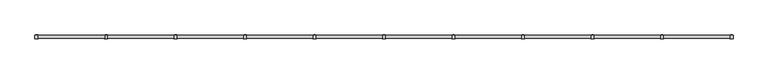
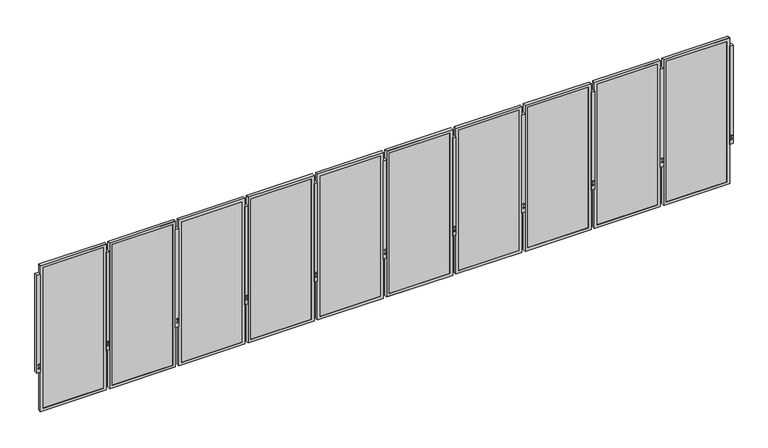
"""IFC4 building model written with IfcOpenShell, lengths in millimetres: railing geometry, Railing - Amico Architectural - Expanded Mesh Railing - Crescent."""

from ifc_helpers import new_model, si_unit, frame, origin, place, context, project, spatial, polyline, outline, extrude, faceted_brep, source, transform, mapped, element, save


def railing_95e22be3(model_context):
    return source(origin(), model_context, "Body", "SolidModel", [
        extrude(outline(polyline([(-3185.0155401, -28401.1435737), (-3134.2155401, -28401.1435737), (-3134.2155401, -28451.9435737), (-3185.0155401, -28451.9435737), (-3185.0155401, -28401.1435737)])), frame((0.0, 0.0, -609.6), z_axis=(0.0, 0.0, 1.0), x_axis=(1.0, 0.0, 0.0)), (0.0, 0.0, 1.0), 1524.0),
        extrude(outline(polyline([(-530.1129981, -3170.0361103), (-542.3802561, -3166.7491084), (-545.667258, -3154.4818504), (-536.6870019, -3145.5015943), (-524.4197439, -3148.7885962), (-521.132742, -3161.0558542), (-530.1129981, -3170.0361103)])), frame((0.0, -28453.7902615, 0.0), z_axis=(0.0, 1.0, 0.0), x_axis=(0.0, 0.0, 1.0)), (0.0, 0.0, 1.0), 54.4933756),
        extrude(outline(polyline([(-479.3129981, -3170.0361103), (-491.5802561, -3166.7491084), (-494.867258, -3154.4818504), (-485.8870019, -3145.5015943), (-473.6197439, -3148.7885962), (-470.332742, -3161.0558542), (-479.3129981, -3170.0361103)])), frame((0.0, -28453.7902615, 0.0), z_axis=(0.0, 1.0, 0.0), x_axis=(0.0, 0.0, 1.0)), (0.0, 0.0, 1.0), 54.4933756),
        faceted_brep([(-4151.4199935, -28448.3367737, -1222.375), (-3183.0449935, -28448.3367737, -1222.375), (-3183.0449935, -28448.3367737, 1044.575), (-4151.4199935, -28448.3367737, 1044.575), (-4110.1449935, -28448.3367737, 1003.3), (-3224.3199935, -28448.3367737, 1003.3), (-3224.3199935, -28448.3367737, -1181.1), (-4110.1449935, -28448.3367737, -1181.1), (-4110.1449935, -28445.5935737, 1003.3), (-4110.1449935, -28445.5935737, -1181.1), (-4151.4199935, -28404.4634772, 1044.575), (-4151.4199935, -28404.4634772, -1222.375), (-4148.2449935, -28404.4634772, 1041.4), (-4148.2449935, -28445.5935737, 1041.4), (-4148.2449935, -28445.5935737, -1219.2), (-4148.2449935, -28404.4634772, -1219.2), (-3224.3199935, -28445.5935737, -1181.1), (-3183.0449935, -28404.4634772, -1222.375), (-3186.2199935, -28445.5935737, -1219.2), (-3186.2199935, -28404.4634772, -1219.2), (-3224.3199935, -28445.5935737, 1003.3), (-3183.0449935, -28404.4634772, 1044.575), (-3186.2199935, -28445.5935737, 1041.4), (-3186.2199935, -28404.4634772, 1041.4)], [[[0, 1, 2, 3], [4, 5, 6, 7]], [[8, 4, 7, 9]], [[3, 10, 11, 0]], [[12, 13, 14, 15]], [[9, 7, 6, 16]], [[0, 11, 17, 1]], [[15, 14, 18, 19]], [[16, 6, 5, 20]], [[1, 17, 21, 2]], [[19, 18, 22, 23]], [[20, 5, 4, 8]], [[10, 21, 17, 11], [15, 19, 23, 12]], [[2, 21, 10, 3]], [[13, 22, 18, 14], [9, 16, 20, 8]], [[23, 22, 13, 12]]]),
        extrude(outline(polyline([(-4148.2449935, -28436.0685737), (-3186.2199935, -28436.0685737), (-3186.2199935, -28445.5935737), (-4148.2449935, -28445.5935737), (-4148.2449935, -28436.0685737)])), frame((0.0, 0.0, -1219.2), z_axis=(0.0, 0.0, 1.0), x_axis=(1.0, 0.0, 0.0)), (0.0, 0.0, 1.0), 2260.6),
        extrude(outline(polyline([(-4202.6030401, -28401.1435737), (-4151.8030401, -28401.1435737), (-4151.8030401, -28451.9435737), (-4202.6030401, -28451.9435737), (-4202.6030401, -28401.1435737)])), frame((0.0, 0.0, -609.6), z_axis=(0.0, 0.0, 1.0), x_axis=(1.0, 0.0, 0.0)), (0.0, 0.0, 1.0), 1524.0),
        extrude(outline(polyline([(-530.1129981, -4187.6236103), (-542.3802561, -4184.3366084), (-545.667258, -4172.0693504), (-536.6870019, -4163.0890943), (-524.4197439, -4166.3760962), (-521.132742, -4178.6433542), (-530.1129981, -4187.6236103)])), frame((0.0, -28453.7902615, 0.0), z_axis=(0.0, 1.0, 0.0), x_axis=(0.0, 0.0, 1.0)), (0.0, 0.0, 1.0), 54.4933756),
        extrude(outline(polyline([(-479.3129981, -4187.6236103), (-491.5802561, -4184.3366084), (-494.867258, -4172.0693504), (-485.8870019, -4163.0890943), (-473.6197439, -4166.3760962), (-470.332742, -4178.6433542), (-479.3129981, -4187.6236103)])), frame((0.0, -28453.7902615, 0.0), z_axis=(0.0, 1.0, 0.0), x_axis=(0.0, 0.0, 1.0)), (0.0, 0.0, 1.0), 54.4933756),
        faceted_brep([(-5169.0074935, -28448.3367737, -1222.375), (-4200.6324935, -28448.3367737, -1222.375), (-4200.6324935, -28448.3367737, 1044.575), (-5169.0074935, -28448.3367737, 1044.575), (-5127.7324935, -28448.3367737, 1003.3), (-4241.9074935, -28448.3367737, 1003.3), (-4241.9074935, -28448.3367737, -1181.1), (-5127.7324935, -28448.3367737, -1181.1), (-5127.7324935, -28445.5935737, 1003.3), (-5127.7324935, -28445.5935737, -1181.1), (-5169.0074935, -28404.4634772, 1044.575), (-5169.0074935, -28404.4634772, -1222.375), (-5165.8324935, -28404.4634772, 1041.4), (-5165.8324935, -28445.5935737, 1041.4), (-5165.8324935, -28445.5935737, -1219.2), (-5165.8324935, -28404.4634772, -1219.2), (-4241.9074935, -28445.5935737, -1181.1), (-4200.6324935, -28404.4634772, -1222.375), (-4203.8074935, -28445.5935737, -1219.2), (-4203.8074935, -28404.4634772, -1219.2), (-4241.9074935, -28445.5935737, 1003.3), (-4200.6324935, -28404.4634772, 1044.575), (-4203.8074935, -28445.5935737, 1041.4), (-4203.8074935, -28404.4634772, 1041.4)], [[[0, 1, 2, 3], [4, 5, 6, 7]], [[8, 4, 7, 9]], [[3, 10, 11, 0]], [[12, 13, 14, 15]], [[9, 7, 6, 16]], [[0, 11, 17, 1]], [[15, 14, 18, 19]], [[16, 6, 5, 20]], [[1, 17, 21, 2]], [[19, 18, 22, 23]], [[20, 5, 4, 8]], [[10, 21, 17, 11], [15, 19, 23, 12]], [[2, 21, 10, 3]], [[13, 22, 18, 14], [9, 16, 20, 8]], [[23, 22, 13, 12]]]),
        extrude(outline(polyline([(-5165.8324935, -28436.0685737), (-4203.8074935, -28436.0685737), (-4203.8074935, -28445.5935737), (-5165.8324935, -28445.5935737), (-5165.8324935, -28436.0685737)])), frame((0.0, 0.0, -1219.2), z_axis=(0.0, 0.0, 1.0), x_axis=(1.0, 0.0, 0.0)), (0.0, 0.0, 1.0), 2260.6),
        extrude(outline(polyline([(-5220.1905401, -28401.1435737), (-5169.3905401, -28401.1435737), (-5169.3905401, -28451.9435737), (-5220.1905401, -28451.9435737), (-5220.1905401, -28401.1435737)])), frame((0.0, 0.0, -609.6), z_axis=(0.0, 0.0, 1.0), x_axis=(1.0, 0.0, 0.0)), (0.0, 0.0, 1.0), 1524.0),
        extrude(outline(polyline([(-530.1129981, -5205.2111103), (-542.3802561, -5201.9241084), (-545.667258, -5189.6568504), (-536.6870019, -5180.6765943), (-524.4197439, -5183.9635962), (-521.132742, -5196.2308542), (-530.1129981, -5205.2111103)])), frame((0.0, -28453.7902615, 0.0), z_axis=(0.0, 1.0, 0.0), x_axis=(0.0, 0.0, 1.0)), (0.0, 0.0, 1.0), 54.4933756),
        extrude(outline(polyline([(-479.3129981, -5205.2111103), (-491.5802561, -5201.9241084), (-494.867258, -5189.6568504), (-485.8870019, -5180.6765943), (-473.6197439, -5183.9635962), (-470.332742, -5196.2308542), (-479.3129981, -5205.2111103)])), frame((0.0, -28453.7902615, 0.0), z_axis=(0.0, 1.0, 0.0), x_axis=(0.0, 0.0, 1.0)), (0.0, 0.0, 1.0), 54.4933756),
        faceted_brep([(-6186.5949935, -28448.3367737, -1222.375), (-5218.2199935, -28448.3367737, -1222.375), (-5218.2199935, -28448.3367737, 1044.575), (-6186.5949935, -28448.3367737, 1044.575), (-6145.3199935, -28448.3367737, 1003.3), (-5259.4949935, -28448.3367737, 1003.3), (-5259.4949935, -28448.3367737, -1181.1), (-6145.3199935, -28448.3367737, -1181.1), (-6145.3199935, -28445.5935737, 1003.3), (-6145.3199935, -28445.5935737, -1181.1), (-6186.5949935, -28404.4634772, 1044.575), (-6186.5949935, -28404.4634772, -1222.375), (-6183.4199935, -28404.4634772, 1041.4), (-6183.4199935, -28445.5935737, 1041.4), (-6183.4199935, -28445.5935737, -1219.2), (-6183.4199935, -28404.4634772, -1219.2), (-5259.4949935, -28445.5935737, -1181.1), (-5218.2199935, -28404.4634772, -1222.375), (-5221.3949935, -28445.5935737, -1219.2), (-5221.3949935, -28404.4634772, -1219.2), (-5259.4949935, -28445.5935737, 1003.3), (-5218.2199935, -28404.4634772, 1044.575), (-5221.3949935, -28445.5935737, 1041.4), (-5221.3949935, -28404.4634772, 1041.4)], [[[0, 1, 2, 3], [4, 5, 6, 7]], [[8, 4, 7, 9]], [[3, 10, 11, 0]], [[12, 13, 14, 15]], [[9, 7, 6, 16]], [[0, 11, 17, 1]], [[15, 14, 18, 19]], [[16, 6, 5, 20]], [[1, 17, 21, 2]], [[19, 18, 22, 23]], [[20, 5, 4, 8]], [[10, 21, 17, 11], [15, 19, 23, 12]], [[2, 21, 10, 3]], [[13, 22, 18, 14], [9, 16, 20, 8]], [[23, 22, 13, 12]]]),
        extrude(outline(polyline([(-6183.4199935, -28436.0685737), (-5221.3949935, -28436.0685737), (-5221.3949935, -28445.5935737), (-6183.4199935, -28445.5935737), (-6183.4199935, -28436.0685737)])), frame((0.0, 0.0, -1219.2), z_axis=(0.0, 0.0, 1.0), x_axis=(1.0, 0.0, 0.0)), (0.0, 0.0, 1.0), 2260.6),
        extrude(outline(polyline([(-6237.7780401, -28401.1435737), (-6186.9780401, -28401.1435737), (-6186.9780401, -28451.9435737), (-6237.7780401, -28451.9435737), (-6237.7780401, -28401.1435737)])), frame((0.0, 0.0, -609.6), z_axis=(0.0, 0.0, 1.0), x_axis=(1.0, 0.0, 0.0)), (0.0, 0.0, 1.0), 1524.0),
        extrude(outline(polyline([(-530.1129981, -6222.7986103), (-542.3802561, -6219.5116084), (-545.667258, -6207.2443504), (-536.6870019, -6198.2640943), (-524.4197439, -6201.5510962), (-521.132742, -6213.8183542), (-530.1129981, -6222.7986103)])), frame((0.0, -28453.7902615, 0.0), z_axis=(0.0, 1.0, 0.0), x_axis=(0.0, 0.0, 1.0)), (0.0, 0.0, 1.0), 54.4933756),
        extrude(outline(polyline([(-479.3129981, -6222.7986103), (-491.5802561, -6219.5116084), (-494.867258, -6207.2443504), (-485.8870019, -6198.2640943), (-473.6197439, -6201.5510962), (-470.332742, -6213.8183542), (-479.3129981, -6222.7986103)])), frame((0.0, -28453.7902615, 0.0), z_axis=(0.0, 1.0, 0.0), x_axis=(0.0, 0.0, 1.0)), (0.0, 0.0, 1.0), 54.4933756),
        faceted_brep([(-7204.1824935, -28448.3367737, -1222.375), (-6235.8074935, -28448.3367737, -1222.375), (-6235.8074935, -28448.3367737, 1044.575), (-7204.1824935, -28448.3367737, 1044.575), (-7162.9074935, -28448.3367737, 1003.3), (-6277.0824935, -28448.3367737, 1003.3), (-6277.0824935, -28448.3367737, -1181.1), (-7162.9074935, -28448.3367737, -1181.1), (-7162.9074935, -28445.5935737, 1003.3), (-7162.9074935, -28445.5935737, -1181.1), (-7204.1824935, -28404.4634772, 1044.575), (-7204.1824935, -28404.4634772, -1222.375), (-7201.0074935, -28404.4634772, 1041.4), (-7201.0074935, -28445.5935737, 1041.4), (-7201.0074935, -28445.5935737, -1219.2), (-7201.0074935, -28404.4634772, -1219.2), (-6277.0824935, -28445.5935737, -1181.1), (-6235.8074935, -28404.4634772, -1222.375), (-6238.9824935, -28445.5935737, -1219.2), (-6238.9824935, -28404.4634772, -1219.2), (-6277.0824935, -28445.5935737, 1003.3), (-6235.8074935, -28404.4634772, 1044.575), (-6238.9824935, -28445.5935737, 1041.4), (-6238.9824935, -28404.4634772, 1041.4)], [[[0, 1, 2, 3], [4, 5, 6, 7]], [[8, 4, 7, 9]], [[3, 10, 11, 0]], [[12, 13, 14, 15]], [[9, 7, 6, 16]], [[0, 11, 17, 1]], [[15, 14, 18, 19]], [[16, 6, 5, 20]], [[1, 17, 21, 2]], [[19, 18, 22, 23]], [[20, 5, 4, 8]], [[10, 21, 17, 11], [15, 19, 23, 12]], [[2, 21, 10, 3]], [[13, 22, 18, 14], [9, 16, 20, 8]], [[23, 22, 13, 12]]]),
        extrude(outline(polyline([(-7201.0074935, -28436.0685737), (-6238.9824935, -28436.0685737), (-6238.9824935, -28445.5935737), (-7201.0074935, -28445.5935737), (-7201.0074935, -28436.0685737)])), frame((0.0, 0.0, -1219.2), z_axis=(0.0, 0.0, 1.0), x_axis=(1.0, 0.0, 0.0)), (0.0, 0.0, 1.0), 2260.6),
        extrude(outline(polyline([(-7255.3655401, -28401.1435737), (-7204.5655401, -28401.1435737), (-7204.5655401, -28451.9435737), (-7255.3655401, -28451.9435737), (-7255.3655401, -28401.1435737)])), frame((0.0, 0.0, -609.6), z_axis=(0.0, 0.0, 1.0), x_axis=(1.0, 0.0, 0.0)), (0.0, 0.0, 1.0), 1524.0),
        extrude(outline(polyline([(-530.1129981, -7240.3861103), (-542.3802561, -7237.0991084), (-545.667258, -7224.8318504), (-536.6870019, -7215.8515943), (-524.4197439, -7219.1385962), (-521.132742, -7231.4058542), (-530.1129981, -7240.3861103)])), frame((0.0, -28453.7902615, 0.0), z_axis=(0.0, 1.0, 0.0), x_axis=(0.0, 0.0, 1.0)), (0.0, 0.0, 1.0), 54.4933756),
        extrude(outline(polyline([(-479.3129981, -7240.3861103), (-491.5802561, -7237.0991084), (-494.867258, -7224.8318504), (-485.8870019, -7215.8515943), (-473.6197439, -7219.1385962), (-470.332742, -7231.4058542), (-479.3129981, -7240.3861103)])), frame((0.0, -28453.7902615, 0.0), z_axis=(0.0, 1.0, 0.0), x_axis=(0.0, 0.0, 1.0)), (0.0, 0.0, 1.0), 54.4933756),
        faceted_brep([(-8221.7699935, -28448.3367737, -1222.375), (-7253.3949935, -28448.3367737, -1222.375), (-7253.3949935, -28448.3367737, 1044.575), (-8221.7699935, -28448.3367737, 1044.575), (-8180.4949935, -28448.3367737, 1003.3), (-7294.6699935, -28448.3367737, 1003.3), (-7294.6699935, -28448.3367737, -1181.1), (-8180.4949935, -28448.3367737, -1181.1), (-8180.4949935, -28445.5935737, 1003.3), (-8180.4949935, -28445.5935737, -1181.1), (-8221.7699935, -28404.4634772, 1044.575), (-8221.7699935, -28404.4634772, -1222.375), (-8218.5949935, -28404.4634772, 1041.4), (-8218.5949935, -28445.5935737, 1041.4), (-8218.5949935, -28445.5935737, -1219.2), (-8218.5949935, -28404.4634772, -1219.2), (-7294.6699935, -28445.5935737, -1181.1), (-7253.3949935, -28404.4634772, -1222.375), (-7256.5699935, -28445.5935737, -1219.2), (-7256.5699935, -28404.4634772, -1219.2), (-7294.6699935, -28445.5935737, 1003.3), (-7253.3949935, -28404.4634772, 1044.575), (-7256.5699935, -28445.5935737, 1041.4), (-7256.5699935, -28404.4634772, 1041.4)], [[[0, 1, 2, 3], [4, 5, 6, 7]], [[8, 4, 7, 9]], [[3, 10, 11, 0]], [[12, 13, 14, 15]], [[9, 7, 6, 16]], [[0, 11, 17, 1]], [[15, 14, 18, 19]], [[16, 6, 5, 20]], [[1, 17, 21, 2]], [[19, 18, 22, 23]], [[20, 5, 4, 8]], [[10, 21, 17, 11], [15, 19, 23, 12]], [[2, 21, 10, 3]], [[13, 22, 18, 14], [9, 16, 20, 8]], [[23, 22, 13, 12]]]),
        extrude(outline(polyline([(-8218.5949935, -28436.0685737), (-7256.5699935, -28436.0685737), (-7256.5699935, -28445.5935737), (-8218.5949935, -28445.5935737), (-8218.5949935, -28436.0685737)])), frame((0.0, 0.0, -1219.2), z_axis=(0.0, 0.0, 1.0), x_axis=(1.0, 0.0, 0.0)), (0.0, 0.0, 1.0), 2260.6),
        extrude(outline(polyline([(-8272.9530401, -28401.1435737), (-8222.1530401, -28401.1435737), (-8222.1530401, -28451.9435737), (-8272.9530401, -28451.9435737), (-8272.9530401, -28401.1435737)])), frame((0.0, 0.0, -609.6), z_axis=(0.0, 0.0, 1.0), x_axis=(1.0, 0.0, 0.0)), (0.0, 0.0, 1.0), 1524.0),
        extrude(outline(polyline([(-530.1129981, -8257.9736103), (-542.3802561, -8254.6866084), (-545.667258, -8242.4193504), (-536.6870019, -8233.4390943), (-524.4197439, -8236.7260962), (-521.132742, -8248.9933542), (-530.1129981, -8257.9736103)])), frame((0.0, -28453.7902615, 0.0), z_axis=(0.0, 1.0, 0.0), x_axis=(0.0, 0.0, 1.0)), (0.0, 0.0, 1.0), 54.4933756),
        extrude(outline(polyline([(-479.3129981, -8257.9736103), (-491.5802561, -8254.6866084), (-494.867258, -8242.4193504), (-485.8870019, -8233.4390943), (-473.6197439, -8236.7260962), (-470.332742, -8248.9933542), (-479.3129981, -8257.9736103)])), frame((0.0, -28453.7902615, 0.0), z_axis=(0.0, 1.0, 0.0), x_axis=(0.0, 0.0, 1.0)), (0.0, 0.0, 1.0), 54.4933756),
        faceted_brep([(-9239.3574935, -28448.3367737, -1222.375), (-8270.9824935, -28448.3367737, -1222.375), (-8270.9824935, -28448.3367737, 1044.575), (-9239.3574935, -28448.3367737, 1044.575), (-9198.0824935, -28448.3367737, 1003.3), (-8312.2574935, -28448.3367737, 1003.3), (-8312.2574935, -28448.3367737, -1181.1), (-9198.0824935, -28448.3367737, -1181.1), (-9198.0824935, -28445.5935737, 1003.3), (-9198.0824935, -28445.5935737, -1181.1), (-9239.3574935, -28404.4634772, 1044.575), (-9239.3574935, -28404.4634772, -1222.375), (-9236.1824935, -28404.4634772, 1041.4), (-9236.1824935, -28445.5935737, 1041.4), (-9236.1824935, -28445.5935737, -1219.2), (-9236.1824935, -28404.4634772, -1219.2), (-8312.2574935, -28445.5935737, -1181.1), (-8270.9824935, -28404.4634772, -1222.375), (-8274.1574935, -28445.5935737, -1219.2), (-8274.1574935, -28404.4634772, -1219.2), (-8312.2574935, -28445.5935737, 1003.3), (-8270.9824935, -28404.4634772, 1044.575), (-8274.1574935, -28445.5935737, 1041.4), (-8274.1574935, -28404.4634772, 1041.4)], [[[0, 1, 2, 3], [4, 5, 6, 7]], [[8, 4, 7, 9]], [[3, 10, 11, 0]], [[12, 13, 14, 15]], [[9, 7, 6, 16]], [[0, 11, 17, 1]], [[15, 14, 18, 19]], [[16, 6, 5, 20]], [[1, 17, 21, 2]], [[19, 18, 22, 23]], [[20, 5, 4, 8]], [[10, 21, 17, 11], [15, 19, 23, 12]], [[2, 21, 10, 3]], [[13, 22, 18, 14], [9, 16, 20, 8]], [[23, 22, 13, 12]]]),
        extrude(outline(polyline([(-9236.1824935, -28436.0685737), (-8274.1574935, -28436.0685737), (-8274.1574935, -28445.5935737), (-9236.1824935, -28445.5935737), (-9236.1824935, -28436.0685737)])), frame((0.0, 0.0, -1219.2), z_axis=(0.0, 0.0, 1.0), x_axis=(1.0, 0.0, 0.0)), (0.0, 0.0, 1.0), 2260.6),
        extrude(outline(polyline([(-9290.5405401, -28401.1435737), (-9239.7405401, -28401.1435737), (-9239.7405401, -28451.9435737), (-9290.5405401, -28451.9435737), (-9290.5405401, -28401.1435737)])), frame((0.0, 0.0, -609.6), z_axis=(0.0, 0.0, 1.0), x_axis=(1.0, 0.0, 0.0)), (0.0, 0.0, 1.0), 1524.0),
        extrude(outline(polyline([(-530.1129981, -9275.5611103), (-542.3802561, -9272.2741084), (-545.667258, -9260.0068504), (-536.6870019, -9251.0265943), (-524.4197439, -9254.3135962), (-521.132742, -9266.5808542), (-530.1129981, -9275.5611103)])), frame((0.0, -28453.7902615, 0.0), z_axis=(0.0, 1.0, 0.0), x_axis=(0.0, 0.0, 1.0)), (0.0, 0.0, 1.0), 54.4933756),
        extrude(outline(polyline([(-479.3129981, -9275.5611103), (-491.5802561, -9272.2741084), (-494.867258, -9260.0068504), (-485.8870019, -9251.0265943), (-473.6197439, -9254.3135962), (-470.332742, -9266.5808542), (-479.3129981, -9275.5611103)])), frame((0.0, -28453.7902615, 0.0), z_axis=(0.0, 1.0, 0.0), x_axis=(0.0, 0.0, 1.0)), (0.0, 0.0, 1.0), 54.4933756),
        faceted_brep([(-10256.9449935, -28448.3367737, -1222.375), (-9288.5699935, -28448.3367737, -1222.375), (-9288.5699935, -28448.3367737, 1044.575), (-10256.9449935, -28448.3367737, 1044.575), (-10215.6699935, -28448.3367737, 1003.3), (-9329.8449935, -28448.3367737, 1003.3), (-9329.8449935, -28448.3367737, -1181.1), (-10215.6699935, -28448.3367737, -1181.1), (-10215.6699935, -28445.5935737, 1003.3), (-10215.6699935, -28445.5935737, -1181.1), (-10256.9449935, -28404.4634772, 1044.575), (-10256.9449935, -28404.4634772, -1222.375), (-10253.7699935, -28404.4634772, 1041.4), (-10253.7699935, -28445.5935737, 1041.4), (-10253.7699935, -28445.5935737, -1219.2), (-10253.7699935, -28404.4634772, -1219.2), (-9329.8449935, -28445.5935737, -1181.1), (-9288.5699935, -28404.4634772, -1222.375), (-9291.7449935, -28445.5935737, -1219.2), (-9291.7449935, -28404.4634772, -1219.2), (-9329.8449935, -28445.5935737, 1003.3), (-9288.5699935, -28404.4634772, 1044.575), (-9291.7449935, -28445.5935737, 1041.4), (-9291.7449935, -28404.4634772, 1041.4)], [[[0, 1, 2, 3], [4, 5, 6, 7]], [[8, 4, 7, 9]], [[3, 10, 11, 0]], [[12, 13, 14, 15]], [[9, 7, 6, 16]], [[0, 11, 17, 1]], [[15, 14, 18, 19]], [[16, 6, 5, 20]], [[1, 17, 21, 2]], [[19, 18, 22, 23]], [[20, 5, 4, 8]], [[10, 21, 17, 11], [15, 19, 23, 12]], [[2, 21, 10, 3]], [[13, 22, 18, 14], [9, 16, 20, 8]], [[23, 22, 13, 12]]]),
        extrude(outline(polyline([(-10253.7699935, -28436.0685737), (-9291.7449935, -28436.0685737), (-9291.7449935, -28445.5935737), (-10253.7699935, -28445.5935737), (-10253.7699935, -28436.0685737)])), frame((0.0, 0.0, -1219.2), z_axis=(0.0, 0.0, 1.0), x_axis=(1.0, 0.0, 0.0)), (0.0, 0.0, 1.0), 2260.6),
        extrude(outline(polyline([(-10308.1280401, -28401.1435737), (-10257.3280401, -28401.1435737), (-10257.3280401, -28451.9435737), (-10308.1280401, -28451.9435737), (-10308.1280401, -28401.1435737)])), frame((0.0, 0.0, -609.6), z_axis=(0.0, 0.0, 1.0), x_axis=(1.0, 0.0, 0.0)), (0.0, 0.0, 1.0), 1524.0),
        extrude(outline(polyline([(-530.1129981, -10293.1486103), (-542.3802561, -10289.8616084), (-545.667258, -10277.5943504), (-536.6870019, -10268.6140943), (-524.4197439, -10271.9010962), (-521.132742, -10284.1683542), (-530.1129981, -10293.1486103)])), frame((0.0, -28453.7902615, 0.0), z_axis=(0.0, 1.0, 0.0), x_axis=(0.0, 0.0, 1.0)), (0.0, 0.0, 1.0), 54.4933756),
        extrude(outline(polyline([(-479.3129981, -10293.1486103), (-491.5802561, -10289.8616084), (-494.867258, -10277.5943504), (-485.8870019, -10268.6140943), (-473.6197439, -10271.9010962), (-470.332742, -10284.1683542), (-479.3129981, -10293.1486103)])), frame((0.0, -28453.7902615, 0.0), z_axis=(0.0, 1.0, 0.0), x_axis=(0.0, 0.0, 1.0)), (0.0, 0.0, 1.0), 54.4933756),
        faceted_brep([(-11274.5324935, -28448.3367737, -1222.375), (-10306.1574935, -28448.3367737, -1222.375), (-10306.1574935, -28448.3367737, 1044.575), (-11274.5324935, -28448.3367737, 1044.575), (-11233.2574935, -28448.3367737, 1003.3), (-10347.4324935, -28448.3367737, 1003.3), (-10347.4324935, -28448.3367737, -1181.1), (-11233.2574935, -28448.3367737, -1181.1), (-11233.2574935, -28445.5935737, 1003.3), (-11233.2574935, -28445.5935737, -1181.1), (-11274.5324935, -28404.4634772, 1044.575), (-11274.5324935, -28404.4634772, -1222.375), (-11271.3574935, -28404.4634772, 1041.4), (-11271.3574935, -28445.5935737, 1041.4), (-11271.3574935, -28445.5935737, -1219.2), (-11271.3574935, -28404.4634772, -1219.2), (-10347.4324935, -28445.5935737, -1181.1), (-10306.1574935, -28404.4634772, -1222.375), (-10309.3324935, -28445.5935737, -1219.2), (-10309.3324935, -28404.4634772, -1219.2), (-10347.4324935, -28445.5935737, 1003.3), (-10306.1574935, -28404.4634772, 1044.575), (-10309.3324935, -28445.5935737, 1041.4), (-10309.3324935, -28404.4634772, 1041.4)], [[[0, 1, 2, 3], [4, 5, 6, 7]], [[8, 4, 7, 9]], [[3, 10, 11, 0]], [[12, 13, 14, 15]], [[9, 7, 6, 16]], [[0, 11, 17, 1]], [[15, 14, 18, 19]], [[16, 6, 5, 20]], [[1, 17, 21, 2]], [[19, 18, 22, 23]], [[20, 5, 4, 8]], [[10, 21, 17, 11], [15, 19, 23, 12]], [[2, 21, 10, 3]], [[13, 22, 18, 14], [9, 16, 20, 8]], [[23, 22, 13, 12]]]),
        extrude(outline(polyline([(-11271.3574935, -28436.0685737), (-10309.3324935, -28436.0685737), (-10309.3324935, -28445.5935737), (-11271.3574935, -28445.5935737), (-11271.3574935, -28436.0685737)])), frame((0.0, 0.0, -1219.2), z_axis=(0.0, 0.0, 1.0), x_axis=(1.0, 0.0, 0.0)), (0.0, 0.0, 1.0), 2260.6),
        extrude(outline(polyline([(-11325.7155401, -28401.1435737), (-11274.9155401, -28401.1435737), (-11274.9155401, -28451.9435737), (-11325.7155401, -28451.9435737), (-11325.7155401, -28401.1435737)])), frame((0.0, 0.0, -609.6), z_axis=(0.0, 0.0, 1.0), x_axis=(1.0, 0.0, 0.0)), (0.0, 0.0, 1.0), 1524.0),
        extrude(outline(polyline([(-530.1129981, -11310.7361103), (-542.3802561, -11307.4491084), (-545.667258, -11295.1818504), (-536.6870019, -11286.2015943), (-524.4197439, -11289.4885962), (-521.132742, -11301.7558542), (-530.1129981, -11310.7361103)])), frame((0.0, -28453.7902615, 0.0), z_axis=(0.0, 1.0, 0.0), x_axis=(0.0, 0.0, 1.0)), (0.0, 0.0, 1.0), 54.4933756),
        extrude(outline(polyline([(-479.3129981, -11310.7361103), (-491.5802561, -11307.4491084), (-494.867258, -11295.1818504), (-485.8870019, -11286.2015943), (-473.6197439, -11289.4885962), (-470.332742, -11301.7558542), (-479.3129981, -11310.7361103)])), frame((0.0, -28453.7902615, 0.0), z_axis=(0.0, 1.0, 0.0), x_axis=(0.0, 0.0, 1.0)), (0.0, 0.0, 1.0), 54.4933756),
        faceted_brep([(-12292.1199935, -28448.3367737, -1222.375), (-11323.7449935, -28448.3367737, -1222.375), (-11323.7449935, -28448.3367737, 1044.575), (-12292.1199935, -28448.3367737, 1044.575), (-12250.8449935, -28448.3367737, 1003.3), (-11365.0199935, -28448.3367737, 1003.3), (-11365.0199935, -28448.3367737, -1181.1), (-12250.8449935, -28448.3367737, -1181.1), (-12250.8449935, -28445.5935737, 1003.3), (-12250.8449935, -28445.5935737, -1181.1), (-12292.1199935, -28404.4634772, 1044.575), (-12292.1199935, -28404.4634772, -1222.375), (-12288.9449935, -28404.4634772, 1041.4), (-12288.9449935, -28445.5935737, 1041.4), (-12288.9449935, -28445.5935737, -1219.2), (-12288.9449935, -28404.4634772, -1219.2), (-11365.0199935, -28445.5935737, -1181.1), (-11323.7449935, -28404.4634772, -1222.375), (-11326.9199935, -28445.5935737, -1219.2), (-11326.9199935, -28404.4634772, -1219.2), (-11365.0199935, -28445.5935737, 1003.3), (-11323.7449935, -28404.4634772, 1044.575), (-11326.9199935, -28445.5935737, 1041.4), (-11326.9199935, -28404.4634772, 1041.4)], [[[0, 1, 2, 3], [4, 5, 6, 7]], [[8, 4, 7, 9]], [[3, 10, 11, 0]], [[12, 13, 14, 15]], [[9, 7, 6, 16]], [[0, 11, 17, 1]], [[15, 14, 18, 19]], [[16, 6, 5, 20]], [[1, 17, 21, 2]], [[19, 18, 22, 23]], [[20, 5, 4, 8]], [[10, 21, 17, 11], [15, 19, 23, 12]], [[2, 21, 10, 3]], [[13, 22, 18, 14], [9, 16, 20, 8]], [[23, 22, 13, 12]]]),
        extrude(outline(polyline([(-12288.9449935, -28436.0685737), (-11326.9199935, -28436.0685737), (-11326.9199935, -28445.5935737), (-12288.9449935, -28445.5935737), (-12288.9449935, -28436.0685737)])), frame((0.0, 0.0, -1219.2), z_axis=(0.0, 0.0, 1.0), x_axis=(1.0, 0.0, 0.0)), (0.0, 0.0, 1.0), 2260.6),
        extrude(outline(polyline([(-12343.3030401, -28401.1435737), (-12292.5030401, -28401.1435737), (-12292.5030401, -28451.9435737), (-12343.3030401, -28451.9435737), (-12343.3030401, -28401.1435737)])), frame((0.0, 0.0, -609.6), z_axis=(0.0, 0.0, 1.0), x_axis=(1.0, 0.0, 0.0)), (0.0, 0.0, 1.0), 1524.0),
        extrude(outline(polyline([(-530.1129981, -12328.3236103), (-542.3802561, -12325.0366084), (-545.667258, -12312.7693504), (-536.6870019, -12303.7890943), (-524.4197439, -12307.0760962), (-521.132742, -12319.3433542), (-530.1129981, -12328.3236103)])), frame((0.0, -28453.7902615, 0.0), z_axis=(0.0, 1.0, 0.0), x_axis=(0.0, 0.0, 1.0)), (0.0, 0.0, 1.0), 54.4933756),
        extrude(outline(polyline([(-479.3129981, -12328.3236103), (-491.5802561, -12325.0366084), (-494.867258, -12312.7693504), (-485.8870019, -12303.7890943), (-473.6197439, -12307.0760962), (-470.332742, -12319.3433542), (-479.3129981, -12328.3236103)])), frame((0.0, -28453.7902615, 0.0), z_axis=(0.0, 1.0, 0.0), x_axis=(0.0, 0.0, 1.0)), (0.0, 0.0, 1.0), 54.4933756),
        faceted_brep([(-13309.7074935, -28448.3367737, -1222.375), (-12341.3324935, -28448.3367737, -1222.375), (-12341.3324935, -28448.3367737, 1044.575), (-13309.7074935, -28448.3367737, 1044.575), (-13268.4324935, -28448.3367737, 1003.3), (-12382.6074935, -28448.3367737, 1003.3), (-12382.6074935, -28448.3367737, -1181.1), (-13268.4324935, -28448.3367737, -1181.1), (-13268.4324935, -28445.5935737, 1003.3), (-13268.4324935, -28445.5935737, -1181.1), (-13309.7074935, -28404.4634772, 1044.575), (-13309.7074935, -28404.4634772, -1222.375), (-13306.5324935, -28404.4634772, 1041.4), (-13306.5324935, -28445.5935737, 1041.4), (-13306.5324935, -28445.5935737, -1219.2), (-13306.5324935, -28404.4634772, -1219.2), (-12382.6074935, -28445.5935737, -1181.1), (-12341.3324935, -28404.4634772, -1222.375), (-12344.5074935, -28445.5935737, -1219.2), (-12344.5074935, -28404.4634772, -1219.2), (-12382.6074935, -28445.5935737, 1003.3), (-12341.3324935, -28404.4634772, 1044.575), (-12344.5074935, -28445.5935737, 1041.4), (-12344.5074935, -28404.4634772, 1041.4)], [[[0, 1, 2, 3], [4, 5, 6, 7]], [[8, 4, 7, 9]], [[3, 10, 11, 0]], [[12, 13, 14, 15]], [[9, 7, 6, 16]], [[0, 11, 17, 1]], [[15, 14, 18, 19]], [[16, 6, 5, 20]], [[1, 17, 21, 2]], [[19, 18, 22, 23]], [[20, 5, 4, 8]], [[10, 21, 17, 11], [15, 19, 23, 12]], [[2, 21, 10, 3]], [[13, 22, 18, 14], [9, 16, 20, 8]], [[23, 22, 13, 12]]]),
        extrude(outline(polyline([(-13306.5324935, -28436.0685737), (-12344.5074935, -28436.0685737), (-12344.5074935, -28445.5935737), (-13306.5324935, -28445.5935737), (-13306.5324935, -28436.0685737)])), frame((0.0, 0.0, -1219.2), z_axis=(0.0, 0.0, 1.0), x_axis=(1.0, 0.0, 0.0)), (0.0, 0.0, 1.0), 2260.6),
        extrude(outline(polyline([(-13360.8905401, -28401.1435737), (-13310.0905401, -28401.1435737), (-13310.0905401, -28451.9435737), (-13360.8905401, -28451.9435737), (-13360.8905401, -28401.1435737)])), frame((0.0, 0.0, -609.6), z_axis=(0.0, 0.0, 1.0), x_axis=(1.0, 0.0, 0.0)), (0.0, 0.0, 1.0), 1524.0),
        extrude(outline(polyline([(-530.1129981, -13345.9111103), (-542.3802561, -13342.6241084), (-545.667258, -13330.3568504), (-536.6870019, -13321.3765943), (-524.4197439, -13324.6635962), (-521.132742, -13336.9308542), (-530.1129981, -13345.9111103)])), frame((0.0, -28453.7902615, 0.0), z_axis=(0.0, 1.0, 0.0), x_axis=(0.0, 0.0, 1.0)), (0.0, 0.0, 1.0), 54.4933756),
        extrude(outline(polyline([(-479.3129981, -13345.9111103), (-491.5802561, -13342.6241084), (-494.867258, -13330.3568504), (-485.8870019, -13321.3765943), (-473.6197439, -13324.6635962), (-470.332742, -13336.9308542), (-479.3129981, -13345.9111103)])), frame((0.0, -28453.7902615, 0.0), z_axis=(0.0, 1.0, 0.0), x_axis=(0.0, 0.0, 1.0)), (0.0, 0.0, 1.0), 54.4933756),
    ])


if __name__ == "__main__":
    model = new_model("IFC4")
    model_context = context("Model", 3, world=origin())
    ifc_project = project(units=[si_unit("LENGTHUNIT", "METRE", prefix="MILLI")], contexts=[model_context])
    site = spatial("IfcSite", under=ifc_project)
    building = spatial("IfcBuilding", under=site)
    placement = place(None, origin())
    railing_shape = railing_95e22be3(model_context)
    element("IfcRailing", 1, ObjectType="Railing - Amico Architectural - Expanded Mesh Railing - Crescent", at=placement, inside=building, context=model_context, shape_type="MappedRepresentation", body=[
        mapped(railing_shape, transform((0.0, 0.0, 0.0), x_axis=(1.0, 0.0, 0.0), y_axis=(0.0, 1.0, 0.0), z_axis=(0.0, 0.0, 1.0))),
    ])
    save(model, "model.ifc")
